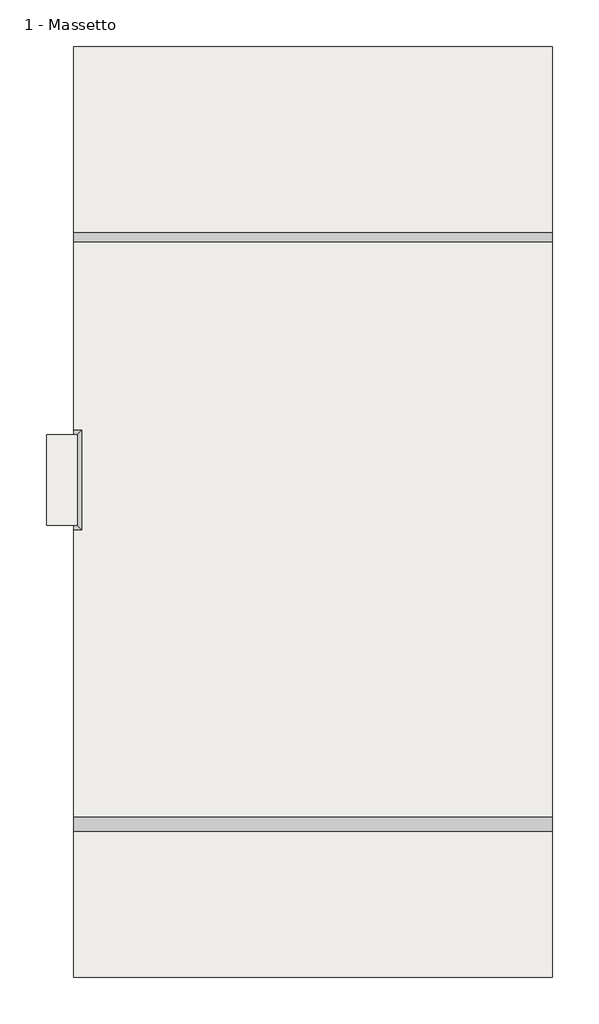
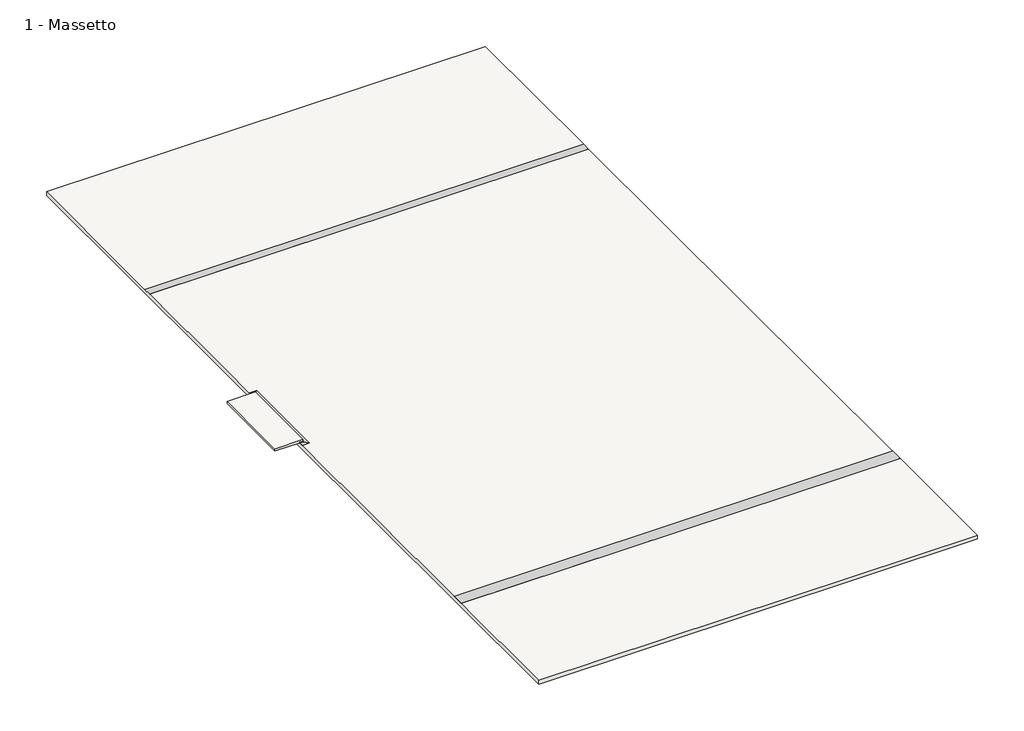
# One storey: 3 proxies, 2 slabs.
"""IFC4 building model written with IfcOpenShell, lengths in millimetres."""

from ifc_helpers import new_model, si_unit, frame, origin, place, context, project, spatial, polyline, outline, extrude, faceted_brep, element, save

model = new_model("IFC4")

# Units and contexts
model_context = context("Model", 3, world=origin())
ifc_project = project(units=[si_unit("LENGTHUNIT", "METRE", prefix="MILLI")], contexts=[model_context])

# Site, building, storey
site = spatial("IfcSite", under=ifc_project)
building = spatial("IfcBuilding", under=site)
storey = spatial("IfcBuildingStorey", under=building, Name="1 - Massetto", Elevation=3050.0)

# Proxies
placement = place(None, origin())
element("IfcBuildingElementProxy", 1, Name="AQUASCUD JOIN BT VOLTECO", ObjectType="AQUASCUD JOIN BT VOLTECO", at=placement, inside=storey, context=model_context, shape_type="Brep", body=[
    faceted_brep([(-4582.4230353, 1843.2570078, 3060.0), (-4582.4230353, 1843.2570078, 3051.0), (-4582.4230353, 2845.2570078, 3051.0), (-4582.4230353, 2845.2570078, 3060.0), (-4583.4230353, 1844.2570078, 3060.0), (-4583.4230353, 2844.2570078, 3060.0), (-4583.4230353, 1844.2570078, 3050.0), (-4583.4230353, 2844.2570078, 3050.0), (-4533.4230353, 1794.2570078, 3050.0), (-4533.4230353, 2894.2570078, 3050.0), (-4533.4230353, 1794.2570078, 3051.0), (-4533.4230353, 2894.2570078, 3051.0), (-4623.4230353, 1843.2570078, 3051.0), (-4623.4230353, 1843.2570078, 3060.0), (-4623.4230353, 1844.2570078, 3060.0), (-4623.4230353, 1844.2570078, 3050.0), (-4623.4230353, 1794.2570078, 3050.0), (-4623.4230353, 1794.2570078, 3051.0), (-4623.4230353, 2845.2570078, 3060.0), (-4623.4230353, 2845.2570078, 3051.0), (-4623.4230353, 2894.2570078, 3051.0), (-4623.4230353, 2894.2570078, 3050.0), (-4623.4230353, 2844.2570078, 3050.0), (-4623.4230353, 2844.2570078, 3060.0)], [[[0, 1, 2, 3]], [[4, 0, 3, 5]], [[6, 4, 5, 7]], [[8, 6, 7, 9]], [[10, 8, 9, 11]], [[1, 10, 11, 2]], [[12, 13, 14, 15, 16, 17]], [[1, 0, 13, 12]], [[0, 4, 14, 13]], [[4, 6, 15, 14]], [[6, 8, 16, 15]], [[8, 10, 17, 16]], [[10, 1, 12, 17]], [[18, 19, 20, 21, 22, 23]], [[3, 2, 19, 18]], [[5, 3, 18, 23]], [[7, 5, 23, 22]], [[9, 7, 22, 21]], [[11, 9, 21, 20]], [[2, 11, 20, 19]]]),
])
element("IfcBuildingElementProxy", 2, Name="GARVO 3 VOLTECO", ObjectType="GARVO 3 VOLTECO", at=placement, inside=storey, context=model_context, shape_type="SweptSolid", body=[
    extrude(outline(polyline([(676.5769647, 5080.2673061), (676.5769647, 4980.2673061), (-4623.4230353, 4980.2673061), (-4623.4230353, 5080.2673061), (676.5769647, 5080.2673061)])), frame((0.0, 0.0, 3050.0), z_axis=(0.0, 0.0, 1.0), x_axis=(1.0, 0.0, 0.0)), (0.0, 0.0, 1.0), 1.0),
])
element("IfcBuildingElementProxy", 3, Name="GARVO 5 VOLTECO", ObjectType="GARVO 5 VOLTECO", at=placement, inside=storey, context=model_context, shape_type="SweptSolid", body=[
    extrude(outline(polyline([(-4623.4230353, -1539.7326939), (-4623.4230353, -1389.7326939), (676.5769647, -1389.7326939), (676.5769647, -1539.7326939), (-4623.4230353, -1539.7326939)])), frame((0.0, 0.0, 3050.0), z_axis=(0.0, 0.0, 1.0), x_axis=(1.0, 0.0, 0.0)), (0.0, 0.0, 1.0), 1.0),
])

# Slabs
element("IfcSlab", 4, ObjectType="MASSETTO PENDENZATO 5 cm", at=placement, inside=storey, context=model_context, shape_type="Brep", body=[
    faceted_brep([(676.5769647, 7140.2673061, 3000.0), (676.5769647, -3159.7326939, 3000.0), (-4623.4230353, -3159.7326939, 3000.0), (-4623.4230353, 7140.2673061, 3000.0), (676.5769647, 7140.2673061, 3050.0), (-4623.4230353, 7140.2673061, 3050.0), (-4623.4230353, 5080.2673061, 3050.0), (-4623.4230353, 4980.2673061, 3050.0), (-4623.4230353, -1389.7326939, 3050.0), (-4623.4230353, -1539.7326939, 3050.0), (-4623.4230353, -3159.7326939, 3050.0), (676.5769647, -3159.7326939, 3050.0), (676.5769647, -1539.7326939, 3050.0), (676.5769647, -1389.7326939, 3050.0), (676.5769647, 4980.2673061, 3050.0), (676.5769647, 5080.2673061, 3050.0), (676.5769647, 7140.2673061, 3036.4238488), (676.5769647, -3159.7326939, 3036.4238488)], [[[0, 1, 2, 3]], [[4, 5, 6, 7, 8, 9, 10, 11, 12, 13, 14, 15]], [[1, 0, 16, 4, 15, 14, 13, 12, 11, 17]], [[2, 1, 17, 11, 10]], [[3, 2, 10, 9, 8, 7, 6, 5]], [[0, 3, 5, 4, 16]]]),
])
element("IfcSlab", 5, ObjectType="SOGLIA IN MARMO sp. 3 cm", at=placement, inside=storey, context=model_context, shape_type="Brep", body=[
    faceted_brep([(-4923.4230353, 2844.2570078, 3050.0), (-4623.4230353, 2844.2570078, 3050.0), (-4583.4230353, 2844.2570078, 3050.0), (-4583.4230353, 1844.2570078, 3050.0), (-4623.4230353, 1844.2570078, 3050.0), (-4923.4230353, 1844.2570078, 3050.0), (-4923.4230353, 2844.2570078, 3080.0), (-4923.4230353, 1844.2570078, 3080.0), (-4583.4230353, 1844.2570078, 3080.0), (-4583.4230353, 2844.2570078, 3080.0), (-4583.4230353, 2844.2570078, 3060.0), (-4583.4230353, 1844.2570078, 3060.0)], [[[0, 1, 2, 3, 4, 5]], [[6, 7, 8, 9]], [[2, 1, 0, 6, 9, 10]], [[3, 2, 10, 9, 8, 11]], [[5, 4, 3, 11, 8, 7]], [[0, 5, 7, 6]]]),
])

save(model, "model.ifc")
